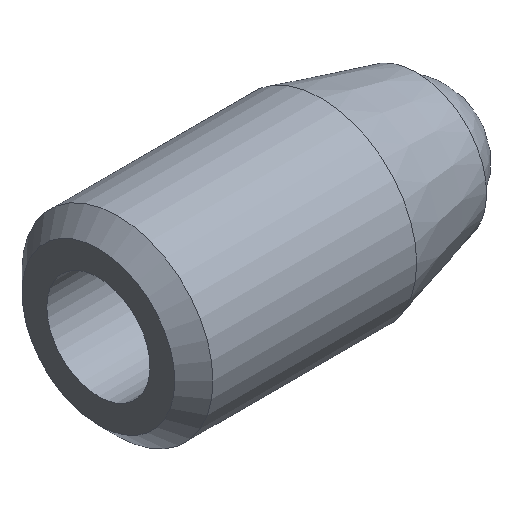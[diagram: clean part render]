
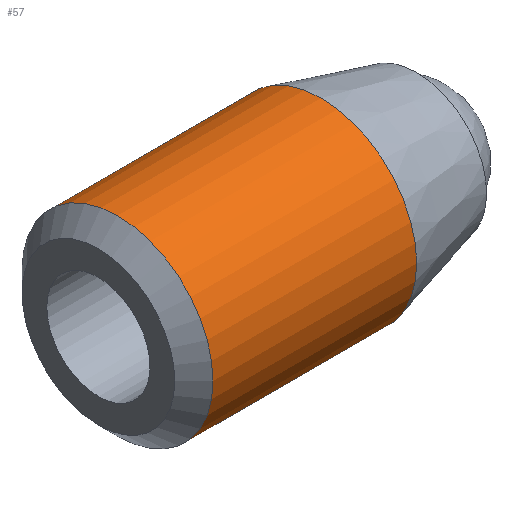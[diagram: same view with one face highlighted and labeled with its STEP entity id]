
A CAD part, isometric view. The second image highlights one B-rep face of the part: STEP entity #57.
In plain terms, the highlighted cylindrical face has radius 3 mm (diameter 6 mm), a full revolution.
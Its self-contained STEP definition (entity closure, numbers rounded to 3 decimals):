
#57 = ADVANCED_FACE( '', ( #118, #119 ), #120, .T. );
#118 = FACE_OUTER_BOUND( '', #175, .T. );
#119 = FACE_OUTER_BOUND( '', #176, .T. );
#120 = CYLINDRICAL_SURFACE( '', #177, 3. );
#175 = EDGE_LOOP( '', ( #246 ) );
#176 = EDGE_LOOP( '', ( #247 ) );
#177 = AXIS2_PLACEMENT_3D( '', #248, #249, #250 );
#246 = ORIENTED_EDGE( '', *, *, #279, .T. );
#247 = ORIENTED_EDGE( '', *, *, #270, .T. );
#248 = CARTESIAN_POINT( '', ( 13.5, 0., 0. ) );
#249 = DIRECTION( '', ( 1., 0., 0. ) );
#250 = DIRECTION( '', ( 0., 0., 1. ) );
#270 = EDGE_CURVE( '', #299, #299, #300, .T. );
#279 = EDGE_CURVE( '', #312, #312, #313, .F. );
#299 = VERTEX_POINT( '', #336 );
#300 = CIRCLE( '', #337, 3. );
#312 = VERTEX_POINT( '', #349 );
#313 = CIRCLE( '', #350, 3. );
#336 = CARTESIAN_POINT( '', ( 7., 0., 3. ) );
#337 = AXIS2_PLACEMENT_3D( '', #374, #375, #376 );
#349 = CARTESIAN_POINT( '', ( 0.6, 0., 3. ) );
#350 = AXIS2_PLACEMENT_3D( '', #386, #387, #388 );
#374 = CARTESIAN_POINT( '', ( 7., 0., 0. ) );
#375 = DIRECTION( '', ( -1., 0., 0. ) );
#376 = DIRECTION( '', ( 0., 0., 1. ) );
#386 = CARTESIAN_POINT( '', ( 0.6, 0., 0. ) );
#387 = DIRECTION( '', ( -1., 0., 0. ) );
#388 = DIRECTION( '', ( 0., 0., 1. ) );
